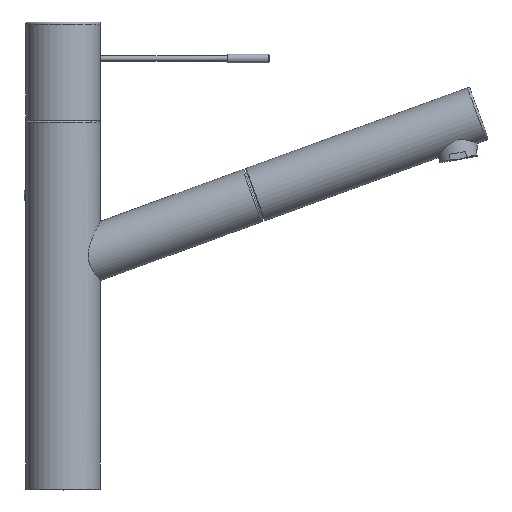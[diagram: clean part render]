
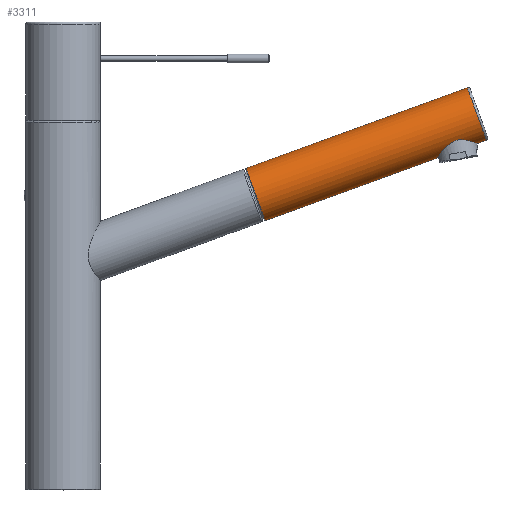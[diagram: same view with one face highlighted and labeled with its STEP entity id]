
A CAD part, top view. The second image highlights one B-rep face of the part: STEP entity #3311.
In plain terms, the highlighted cylindrical face has radius 16 mm (diameter 32 mm), a partial arc.
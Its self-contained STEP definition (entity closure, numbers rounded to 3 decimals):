
#668=CARTESIAN_POINT('',(110.743,170.782,0.));
#669=DIRECTION('',(-0.94,-0.342,0.));
#670=DIRECTION('',(0.342,-0.94,0.));
#671=AXIS2_PLACEMENT_3D('',#668,#669,#670);
#673=CARTESIAN_POINT('',(237.977,217.091,0.));
#674=DIRECTION('',(-0.94,-0.342,0.));
#675=DIRECTION('',(0.342,-0.94,0.));
#676=AXIS2_PLACEMENT_3D('',#673,#674,#675);
#678=CARTESIAN_POINT('',(238.252,200.164,0.));
#679=CARTESIAN_POINT('',(238.252,200.164,0.161));
#680=CARTESIAN_POINT('',(238.245,200.167,0.484));
#681=CARTESIAN_POINT('',(238.214,200.179,0.968));
#682=CARTESIAN_POINT('',(238.162,200.199,1.451));
#683=CARTESIAN_POINT('',(238.088,200.227,1.934));
#684=CARTESIAN_POINT('',(237.994,200.263,2.416));
#685=CARTESIAN_POINT('',(237.878,200.307,2.897));
#686=CARTESIAN_POINT('',(237.741,200.359,3.376));
#687=CARTESIAN_POINT('',(237.581,200.419,3.854));
#688=CARTESIAN_POINT('',(237.399,200.486,4.329));
#689=CARTESIAN_POINT('',(237.194,200.562,4.802));
#690=CARTESIAN_POINT('',(236.966,200.644,5.271));
#691=CARTESIAN_POINT('',(236.714,200.734,5.736));
#692=CARTESIAN_POINT('',(236.438,200.83,6.196));
#693=CARTESIAN_POINT('',(236.138,200.932,6.65));
#694=CARTESIAN_POINT('',(235.814,201.04,7.096));
#695=CARTESIAN_POINT('',(235.466,201.153,7.533));
#696=CARTESIAN_POINT('',(235.095,201.268,7.959));
#697=CARTESIAN_POINT('',(234.701,201.387,8.373));
#698=CARTESIAN_POINT('',(234.287,201.505,8.772));
#699=CARTESIAN_POINT('',(233.853,201.623,9.154));
#700=CARTESIAN_POINT('',(233.404,201.737,9.517));
#701=CARTESIAN_POINT('',(232.941,201.845,9.859));
#702=CARTESIAN_POINT('',(232.47,201.946,10.177));
#703=CARTESIAN_POINT('',(231.994,202.036,10.47));
#704=CARTESIAN_POINT('',(231.517,202.115,10.738));
#705=CARTESIAN_POINT('',(231.043,202.181,10.98));
#706=CARTESIAN_POINT('',(230.576,202.233,11.196));
#707=CARTESIAN_POINT('',(230.118,202.27,11.388));
#708=CARTESIAN_POINT('',(229.67,202.292,11.557));
#709=CARTESIAN_POINT('',(229.232,202.299,11.705));
#710=CARTESIAN_POINT('',(228.806,202.292,11.833));
#711=CARTESIAN_POINT('',(228.39,202.27,11.943));
#712=CARTESIAN_POINT('',(227.983,202.235,12.036));
#713=CARTESIAN_POINT('',(227.586,202.185,12.113));
#714=CARTESIAN_POINT('',(227.195,202.122,12.177));
#715=CARTESIAN_POINT('',(226.811,202.044,12.227));
#716=CARTESIAN_POINT('',(226.431,201.953,12.264));
#717=CARTESIAN_POINT('',(226.054,201.847,12.288));
#718=CARTESIAN_POINT('',(225.679,201.726,12.301));
#719=CARTESIAN_POINT('',(225.305,201.59,12.3));
#720=CARTESIAN_POINT('',(224.929,201.437,12.288));
#721=CARTESIAN_POINT('',(224.551,201.266,12.261));
#722=CARTESIAN_POINT('',(224.169,201.076,12.221));
#723=CARTESIAN_POINT('',(223.782,200.866,12.166));
#724=CARTESIAN_POINT('',(223.388,200.633,12.094));
#725=CARTESIAN_POINT('',(222.987,200.377,12.004));
#726=CARTESIAN_POINT('',(222.578,200.097,11.894));
#727=CARTESIAN_POINT('',(222.162,199.791,11.762));
#728=CARTESIAN_POINT('',(221.739,199.459,11.606));
#729=CARTESIAN_POINT('',(221.31,199.102,11.424));
#730=CARTESIAN_POINT('',(220.876,198.72,11.214));
#731=CARTESIAN_POINT('',(220.44,198.317,10.975));
#732=CARTESIAN_POINT('',(220.007,197.897,10.708));
#733=CARTESIAN_POINT('',(219.582,197.467,10.414));
#734=CARTESIAN_POINT('',(219.168,197.031,10.093));
#735=CARTESIAN_POINT('',(218.768,196.595,9.749));
#736=CARTESIAN_POINT('',(218.384,196.165,9.383));
#737=CARTESIAN_POINT('',(218.019,195.745,8.998));
#738=CARTESIAN_POINT('',(217.676,195.34,8.599));
#739=CARTESIAN_POINT('',(217.355,194.954,8.188));
#740=CARTESIAN_POINT('',(217.057,194.589,7.769));
#741=CARTESIAN_POINT('',(216.781,194.246,7.343));
#742=CARTESIAN_POINT('',(216.527,193.926,6.913));
#743=CARTESIAN_POINT('',(216.294,193.628,6.479));
#744=CARTESIAN_POINT('',(216.081,193.354,6.044));
#745=CARTESIAN_POINT('',(215.887,193.102,5.607));
#746=CARTESIAN_POINT('',(215.712,192.872,5.171));
#747=CARTESIAN_POINT('',(215.554,192.663,4.734));
#748=CARTESIAN_POINT('',(215.412,192.475,4.298));
#749=CARTESIAN_POINT('',(215.287,192.307,3.863));
#750=CARTESIAN_POINT('',(215.176,192.159,3.43));
#751=CARTESIAN_POINT('',(215.08,192.03,2.998));
#752=CARTESIAN_POINT('',(214.998,191.919,2.567));
#753=CARTESIAN_POINT('',(214.93,191.826,2.137));
#754=CARTESIAN_POINT('',(214.874,191.751,1.708));
#755=CARTESIAN_POINT('',(214.831,191.692,1.28));
#756=CARTESIAN_POINT('',(214.801,191.651,0.853));
#757=CARTESIAN_POINT('',(214.783,191.626,0.426));
#758=CARTESIAN_POINT('',(214.779,191.621,0.142));
#759=CARTESIAN_POINT('',(214.779,191.621,0.));
#766=DIRECTION('',(-0.94,-0.342,0.));
#767=VECTOR('',#766,104.889);
#768=CARTESIAN_POINT('',(214.779,191.621,0.));
#769=LINE('',#768,#767);
#853=DIRECTION('',(-0.94,-0.342,0.));
#854=VECTOR('',#853,5.531);
#855=CARTESIAN_POINT('',(243.449,202.056,0.));
#856=LINE('',#855,#854);
#862=DIRECTION('',(-0.94,-0.342,0.));
#863=VECTOR('',#862,135.4);
#864=CARTESIAN_POINT('',(232.505,232.126,
0.));
#865=LINE('',#864,#863);
#2448=CARTESIAN_POINT('',(232.505,232.126,0.));
#2449=CARTESIAN_POINT('',(243.449,202.056,0.));
#2450=VERTEX_POINT('',#2448);
#2451=VERTEX_POINT('',#2449);
#2452=VERTEX_POINT('',#678);
#2453=VERTEX_POINT('',#759);
#2458=CARTESIAN_POINT('',(105.27,185.817,0.));
#2459=CARTESIAN_POINT('',(116.215,155.747,0.));
#2460=VERTEX_POINT('',#2458);
#2461=VERTEX_POINT('',#2459);
#3293=CARTESIAN_POINT('',(104.015,168.333,0.));
#3294=DIRECTION('',(0.94,0.342,0.));
#3295=DIRECTION('',(0.342,-0.94,0.));
#3296=AXIS2_PLACEMENT_3D('',#3293,#3294,#3295);
#3297=CYLINDRICAL_SURFACE('',#3296,16.);
#3298=ORIENTED_EDGE('',*,*,#3275,.T.);
#3300=ORIENTED_EDGE('',*,*,#3299,.F.);
#3302=ORIENTED_EDGE('',*,*,#3301,.F.);
#3304=ORIENTED_EDGE('',*,*,#3303,.T.);
#3306=ORIENTED_EDGE('',*,*,#3305,.T.);
#3308=ORIENTED_EDGE('',*,*,#3307,.T.);
#3309=EDGE_LOOP('',(#3298,#3300,#3302,#3304,#3306,#3308));
#3310=FACE_OUTER_BOUND('',#3309,.F.);
#672=CIRCLE('',#671,16.);
#677=CIRCLE('',#676,16.);
#760=B_SPLINE_CURVE_WITH_KNOTS('',3,(#678,#679,#680,#681,#682,#683,#684,#685,
#686,#687,#688,#689,#690,#691,#692,#693,#694,#695,#696,#697,#698,#699,#700,#701,
#702,#703,#704,#705,#706,#707,#708,#709,#710,#711,#712,#713,#714,#715,#716,#717,
#718,#719,#720,#721,#722,#723,#724,#725,#726,#727,#728,#729,#730,#731,#732,#733,
#734,#735,#736,#737,#738,#739,#740,#741,#742,#743,#744,#745,#746,#747,#748,#749,
#750,#751,#752,#753,#754,#755,#756,#757,#758,#759),.UNSPECIFIED.,.F.,.F.,(4,1,1,
1,1,1,1,1,1,1,1,1,1,1,1,1,1,1,1,1,1,1,1,1,1,1,1,1,1,1,1,1,1,1,1,1,1,1,1,1,1,1,1,
1,1,1,1,1,1,1,1,1,1,1,1,1,1,1,1,1,1,1,1,1,1,1,1,1,1,1,1,1,1,1,1,1,1,1,1,4),
(0.,0.013,0.025,0.038,0.051,
0.063,0.076,0.089,0.101,
0.114,0.127,0.139,0.152,
0.165,0.177,0.19,0.203,
0.215,0.228,0.241,0.253,
0.266,0.278,0.291,0.304,
0.316,0.329,0.342,0.354,
0.367,0.38,0.392,0.405,
0.418,0.43,0.443,0.456,
0.468,0.481,0.494,0.506,
0.519,0.532,0.544,0.557,
0.57,0.582,0.595,0.608,
0.62,0.633,0.646,0.658,
0.671,0.684,0.696,0.709,
0.722,0.734,0.747,0.759,
0.772,0.785,0.797,0.81,
0.823,0.835,0.848,0.861,
0.873,0.886,0.899,0.911,
0.924,0.937,0.949,0.962,
0.975,0.987,1.),.UNSPECIFIED.);
#3275=EDGE_CURVE('',#2461,#2460,#672,.T.);
#3299=EDGE_CURVE('',#2450,#2460,#865,.T.);
#3301=EDGE_CURVE('',#2451,#2450,#677,.T.);
#3303=EDGE_CURVE('',#2451,#2452,#856,.T.);
#3305=EDGE_CURVE('',#2452,#2453,#760,.T.);
#3307=EDGE_CURVE('',#2453,#2461,#769,.T.);
#3311=ADVANCED_FACE('',(#3310),#3297,.T.);
